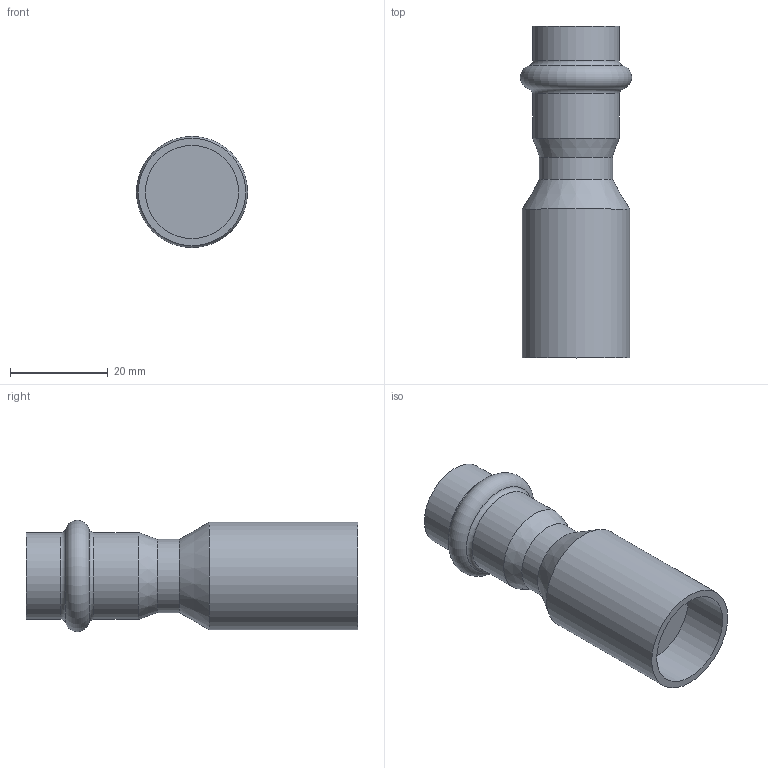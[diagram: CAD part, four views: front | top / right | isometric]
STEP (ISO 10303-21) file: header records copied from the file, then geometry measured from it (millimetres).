
FILE_DESCRIPTION(('STEP AP203'), '1');
FILE_NAME('VTi.905.I.002215', '', ('UNSPECIFIED'), ('UNSPECIFIED'), 'C3D Converter', 'C3D Toolkit', '');
FILE_SCHEMA(('CONFIG_CONTROL_DESIGN'));
Length unit declared in the file: millimetre
Bounding box: 22.79 x 68 x 22.79 mm (x, y, z)
Volume: 17042.7 mm3; surface area: 6006.4 mm2
Topology: 1 solids, 1 shells, 15 faces, 26 edges, 15 vertices
Faces by surface type: cylinder 6, plane 4, torus 3, cone 2
Full cylindrical faces by diameter (mm): 15 x1, 15.3 x1, 17.8 x2, 19.1 x1, 22 x1
Entity records: 344 total; most frequent: DIRECTION 62, CARTESIAN_POINT 46, AXIS2_PLACEMENT_3D 31, ORIENTED_EDGE 30, EDGE_LOOP 28, FACE_OUTER_BOUND 20, ADVANCED_FACE 15, EDGE_CURVE 15
